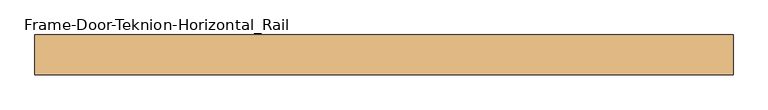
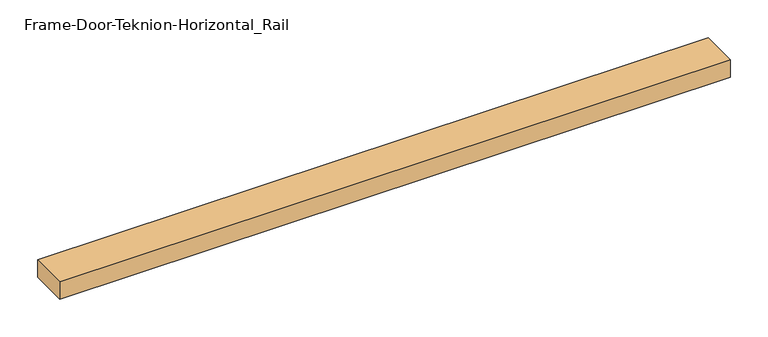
"""IFC4 building model written with IfcOpenShell, lengths in millimetres: door geometry, Frame-Door-Teknion-Horizontal_Rail : FPKK."""

from ifc_helpers import new_model, si_unit, frame, origin, place, context, project, spatial, polyline, outline, extrude, source, transform, mapped, element, save


def frame_door_teknion_horizontal_rail_bdd692f0(model_context):
    return source(origin(), model_context, "Body", "SweptSolid", [
        extrude(outline(polyline([(-512.4152344, 29.2199219), (512.4152344, 29.2199219), (512.4152344, -29.2199219), (-512.4152344, -29.2199219), (-512.4152344, 29.2199219)])), frame((0.0, 0.0, -13.9898438), z_axis=(0.0, 0.0, 1.0), x_axis=(1.0, 0.0, 0.0)), (0.0, 0.0, 1.0), 27.9796875),
    ])


if __name__ == "__main__":
    model = new_model("IFC4")
    model_context = context("Model", 3, world=origin())
    ifc_project = project(units=[si_unit("LENGTHUNIT", "METRE", prefix="MILLI")], contexts=[model_context])
    site = spatial("IfcSite", under=ifc_project)
    building = spatial("IfcBuilding", under=site)
    placement = place(None, origin())
    frame_door_teknion_horizontal_rail_shape = frame_door_teknion_horizontal_rail_bdd692f0(model_context)
    element("IfcDoor", 1, ObjectType="Frame-Door-Teknion-Horizontal_Rail : FPKK", at=placement, inside=building, context=model_context, shape_type="MappedRepresentation", body=[
        mapped(frame_door_teknion_horizontal_rail_shape, transform((0.0, 0.0, 0.0), x_axis=(1.0, 0.0, 0.0), y_axis=(0.0, 1.0, 0.0), z_axis=(0.0, 0.0, 1.0))),
    ])
    save(model, "model.ifc")
